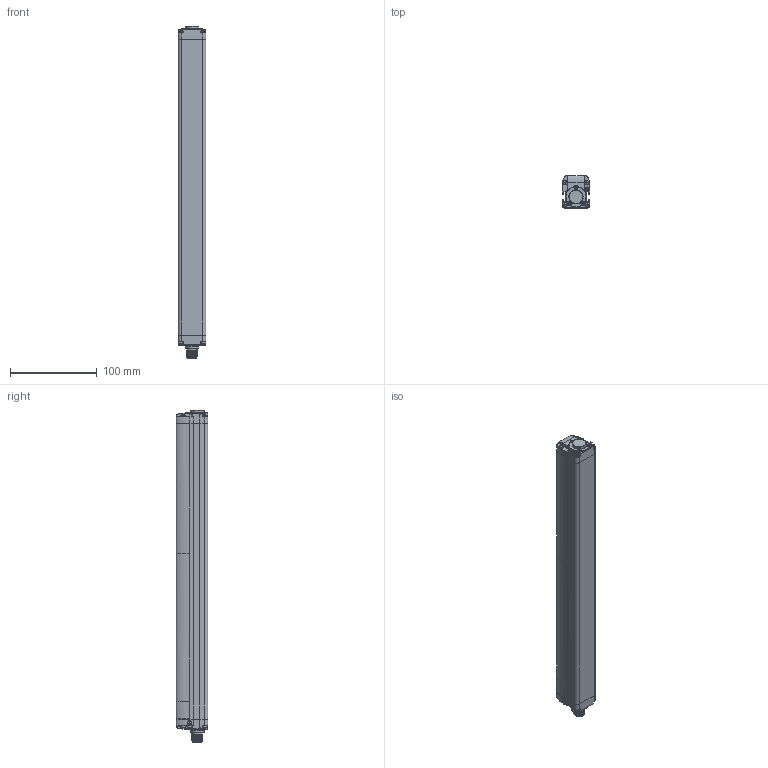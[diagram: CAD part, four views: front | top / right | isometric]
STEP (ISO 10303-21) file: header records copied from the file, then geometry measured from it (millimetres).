
FILE_DESCRIPTION(/* description */ (''),/* implementation_level */ '2;1');
FILE_NAME(/* name */ 'DSD-0146.stp',/* time_stamp */ '2020-07-15T15:06:21+02:00',/* author */ (''),/* organization */ (''),/* preprocessor_version */ 'ST-DEVELOPER v16.7',/* originating_system */ 'SIEMENS PLM Software NX 12.0',/* authorisation */ '');
FILE_SCHEMA (('AUTOMOTIVE_DESIGN { 1 0 10303 214 3 1 1 1 }'));
Products named in the file (1): AP025787_00_1-DSD-0146
Bounding box: 32.3 x 36.9 x 383.24 mm (x, y, z)
Volume: 352962.8 mm3; surface area: 93150.1 mm2
Topology: 12 solids, 716 shells, 1622 faces, 5084 edges, 4000 vertices
Faces by surface type: cylinder 606, bspline 554, plane 376, sphere 51, cone 27, torus 8
Full cylindrical faces by diameter (mm): 1 x8, 1.5 x6, 2 x6, 2.05 x4, 2.5 x12, 2.7 x10, 2.9 x6, 3 x12, 3.4 x6, 3.6 x12, 4.7 x2, 5 x10, 5.3 x2, 7.5 x1, 8 x1, 8.2 x1, 9.3 x1, 9.5 x1, 9.55 x1, 10.5 x1, 11 x2, 12 x12, 13.97 x1, 14.3 x1, 16 x2
Entity records: 83567 total; most frequent: CARTESIAN_POINT 35386, ORIENTED_EDGE 6870, DIRECTION 5925, EDGE_CURVE 4861, VERTEX_POINT 3990, AXIS2_PLACEMENT_3D 2318, EDGE_LOOP 1851, PRESENTATION_STYLE_ASSIGNMENT 1624
